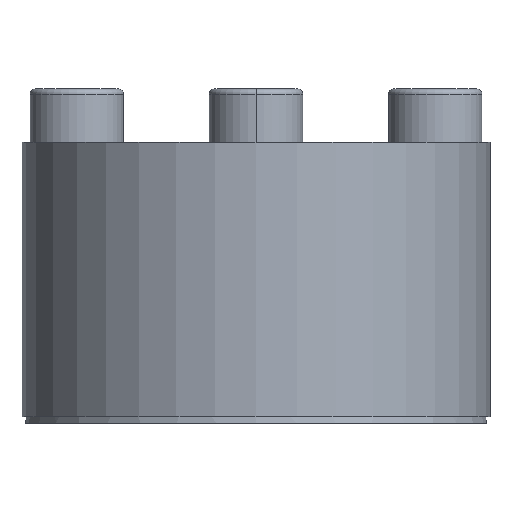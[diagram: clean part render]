
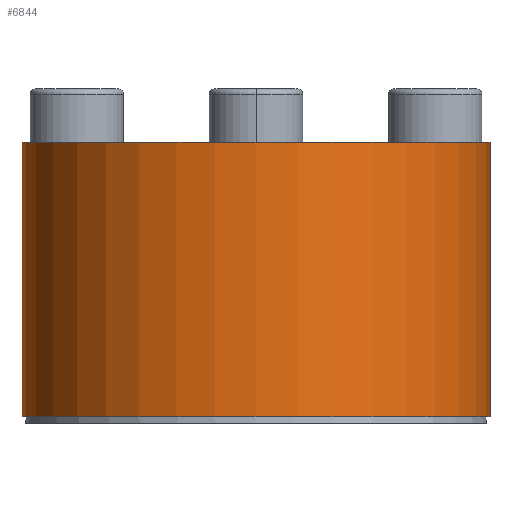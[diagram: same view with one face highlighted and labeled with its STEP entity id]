
A CAD part, front view. The second image highlights one B-rep face of the part: STEP entity #6844.
In plain terms, the highlighted cylindrical face has radius 17.5 mm (diameter 35 mm), a partial arc.
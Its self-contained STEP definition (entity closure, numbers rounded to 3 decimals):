
#163 = DIRECTION ( 'NONE',  ( -1., 0., 0. ) ) ;
#238 = VERTEX_POINT ( 'NONE', #4855 ) ;
#453 = LINE ( 'NONE', #6722, #3247 ) ;
#936 = AXIS2_PLACEMENT_3D ( 'NONE', #5548, #2222, #6089 ) ;
#1286 = DIRECTION ( 'NONE',  ( 0., 0., 1. ) ) ;
#1600 = AXIS2_PLACEMENT_3D ( 'NONE', #2786, #6618, #3332 ) ;
#1637 = VERTEX_POINT ( 'NONE', #2962 ) ;
#1923 = VERTEX_POINT ( 'NONE', #2173 ) ;
#2035 = EDGE_CURVE ( 'NONE', #1637, #2615, #4682, .T. ) ;
#2173 = CARTESIAN_POINT ( 'NONE',  ( -17.5, 0., 0.488 ) ) ;
#2222 = DIRECTION ( 'NONE',  ( 0., 0., -1. ) ) ;
#2615 = VERTEX_POINT ( 'NONE', #4987 ) ;
#2754 = CYLINDRICAL_SURFACE ( 'NONE', #1600, 17.5 ) ;
#2786 = CARTESIAN_POINT ( 'NONE',  ( 0., 0., 0.488 ) ) ;
#2793 = EDGE_CURVE ( 'NONE', #238, #1637, #453, .T. ) ;
#2962 = CARTESIAN_POINT ( 'NONE',  ( 17.5, 0., 20.988 ) ) ;
#3165 = EDGE_CURVE ( 'NONE', #238, #1923, #6864, .T. ) ;
#3247 = VECTOR ( 'NONE', #3455, 1000. ) ;
#3332 = DIRECTION ( 'NONE',  ( 1., 0., 0. ) ) ;
#3455 = DIRECTION ( 'NONE',  ( 0., 0., 1. ) ) ;
#3512 = DIRECTION ( 'NONE',  ( 0., 0., -1. ) ) ;
#3927 = VECTOR ( 'NONE', #1286, 1000. ) ;
#4100 = EDGE_LOOP ( 'NONE', ( #4728, #6168, #4924, #6228 ) ) ;
#4580 = AXIS2_PLACEMENT_3D ( 'NONE', #6777, #3512, #163 ) ;
#4682 = CIRCLE ( 'NONE', #936, 17.5 ) ;
#4728 = ORIENTED_EDGE ( 'NONE', *, *, #5016, .F. ) ;
#4752 = FACE_OUTER_BOUND ( 'NONE', #4100, .T. ) ;
#4855 = CARTESIAN_POINT ( 'NONE',  ( 17.5, 0., 0.488 ) ) ;
#4924 = ORIENTED_EDGE ( 'NONE', *, *, #2793, .T. ) ;
#4987 = CARTESIAN_POINT ( 'NONE',  ( -17.5, 0., 20.988 ) ) ;
#5016 = EDGE_CURVE ( 'NONE', #1923, #2615, #6812, .T. ) ;
#5548 = CARTESIAN_POINT ( 'NONE',  ( 0., 0., 20.988 ) ) ;
#5755 = CARTESIAN_POINT ( 'NONE',  ( -17.5, 0., 0.488 ) ) ;
#6089 = DIRECTION ( 'NONE',  ( -1., 0., 0. ) ) ;
#6168 = ORIENTED_EDGE ( 'NONE', *, *, #3165, .F. ) ;
#6228 = ORIENTED_EDGE ( 'NONE', *, *, #2035, .T. ) ;
#6618 = DIRECTION ( 'NONE',  ( 0., 0., 1. ) ) ;
#6722 = CARTESIAN_POINT ( 'NONE',  ( 17.5, 0., 0.488 ) ) ;
#6777 = CARTESIAN_POINT ( 'NONE',  ( 0., 0., 0.488 ) ) ;
#6812 = LINE ( 'NONE', #5755, #3927 ) ;
#6844 = ADVANCED_FACE ( 'NONE', ( #4752 ), #2754, .T. ) ;
#6864 = CIRCLE ( 'NONE', #4580, 17.5 ) ;
